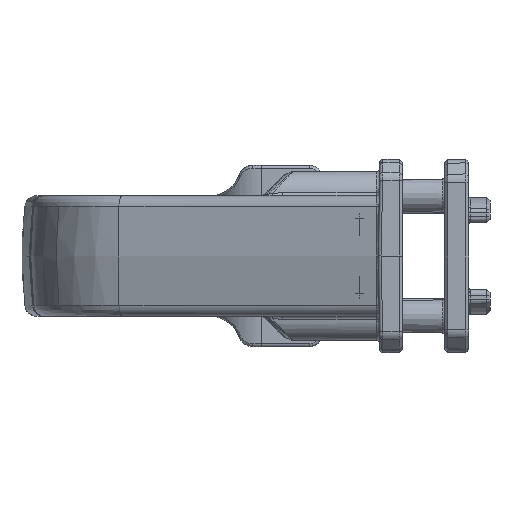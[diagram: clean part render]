
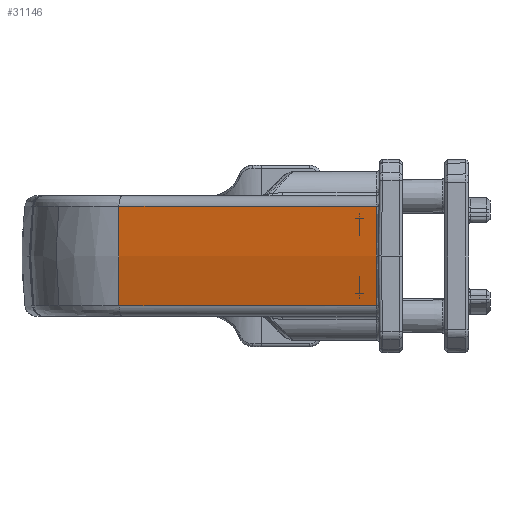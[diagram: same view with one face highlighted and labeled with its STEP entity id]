
A CAD part, left-side view. The second image highlights one B-rep face of the part: STEP entity #31146.
In plain terms, the highlighted cylindrical face has radius 65.276 mm (diameter 130.552 mm), a partial arc.
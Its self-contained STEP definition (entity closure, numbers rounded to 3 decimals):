
#31146 = ADVANCED_FACE('',(#31147),#31203,.T.);
#31147 = FACE_BOUND('',#31148,.T.);
#31148 = EDGE_LOOP('',(#31149,#31160,#31169,#31178,#31187,#31196));
#31149 = ORIENTED_EDGE('',*,*,#31150,.T.);
#31150 = EDGE_CURVE('',#31151,#31153,#31155,.T.);
#31151 = VERTEX_POINT('',#31152);
#31152 = CARTESIAN_POINT('',(-25.391,4.366,0.
    ));
#31153 = VERTEX_POINT('',#31154);
#31154 = CARTESIAN_POINT('',(-24.887,4.222,
    8.253));
#31155 = B_SPLINE_CURVE_WITH_KNOTS('',3,(#31156,#31157,#31158,#31159),
  .UNSPECIFIED.,.F.,.F.,(4,4),(0.,1.),.PIECEWISE_BEZIER_KNOTS.);
#31156 = CARTESIAN_POINT('',(-25.391,4.366,
    0.));
#31157 = CARTESIAN_POINT('',(-25.404,4.317,
    2.758));
#31158 = CARTESIAN_POINT('',(-25.236,4.269,
    5.517));
#31159 = CARTESIAN_POINT('',(-24.887,4.222,
    8.253));
#31160 = ORIENTED_EDGE('',*,*,#31161,.T.);
#31161 = EDGE_CURVE('',#31153,#31162,#31164,.T.);
#31162 = VERTEX_POINT('',#31163);
#31163 = CARTESIAN_POINT('',(-12.971,46.914,
    8.253));
#31164 = B_SPLINE_CURVE_WITH_KNOTS('',3,(#31165,#31166,#31167,#31168),
  .UNSPECIFIED.,.F.,.F.,(4,4),(0.,1.),.PIECEWISE_BEZIER_KNOTS.);
#31165 = CARTESIAN_POINT('',(-24.887,4.222,
    8.253));
#31166 = CARTESIAN_POINT('',(-20.915,18.452,
    8.253));
#31167 = CARTESIAN_POINT('',(-16.943,32.683,
    8.253));
#31168 = CARTESIAN_POINT('',(-12.971,46.914,
    8.253));
#31169 = ORIENTED_EDGE('',*,*,#31170,.T.);
#31170 = EDGE_CURVE('',#31162,#31171,#31173,.T.);
#31171 = VERTEX_POINT('',#31172);
#31172 = CARTESIAN_POINT('',(-13.515,46.914,
    0.));
#31173 = B_SPLINE_CURVE_WITH_KNOTS('',3,(#31174,#31175,#31176,#31177),
  .UNSPECIFIED.,.F.,.F.,(4,4),(0.,1.),.PIECEWISE_BEZIER_KNOTS.);
#31174 = CARTESIAN_POINT('',(-12.971,46.914,
    8.253));
#31175 = CARTESIAN_POINT('',(-13.333,46.914,
    5.514));
#31176 = CARTESIAN_POINT('',(-13.515,46.914,
    2.755));
#31177 = CARTESIAN_POINT('',(-13.515,46.914,
    0.));
#31178 = ORIENTED_EDGE('',*,*,#31179,.T.);
#31179 = EDGE_CURVE('',#31171,#31180,#31182,.T.);
#31180 = VERTEX_POINT('',#31181);
#31181 = CARTESIAN_POINT('',(-12.971,46.914,
    -8.253));
#31182 = B_SPLINE_CURVE_WITH_KNOTS('',3,(#31183,#31184,#31185,#31186),
  .UNSPECIFIED.,.F.,.F.,(4,4),(0.,1.),.PIECEWISE_BEZIER_KNOTS.);
#31183 = CARTESIAN_POINT('',(-13.515,46.914,
    0.));
#31184 = CARTESIAN_POINT('',(-13.515,46.914,
    -2.751));
#31185 = CARTESIAN_POINT('',(-13.334,46.914,
    -5.51));
#31186 = CARTESIAN_POINT('',(-12.971,46.914,
    -8.253));
#31187 = ORIENTED_EDGE('',*,*,#31188,.T.);
#31188 = EDGE_CURVE('',#31180,#31189,#31191,.T.);
#31189 = VERTEX_POINT('',#31190);
#31190 = CARTESIAN_POINT('',(-24.887,4.222,
    -8.253));
#31191 = B_SPLINE_CURVE_WITH_KNOTS('',3,(#31192,#31193,#31194,#31195),
  .UNSPECIFIED.,.F.,.F.,(4,4),(0.,1.),.PIECEWISE_BEZIER_KNOTS.);
#31192 = CARTESIAN_POINT('',(-12.971,46.914,
    -8.253));
#31193 = CARTESIAN_POINT('',(-16.943,32.683,
    -8.253));
#31194 = CARTESIAN_POINT('',(-20.915,18.452,
    -8.253));
#31195 = CARTESIAN_POINT('',(-24.887,4.222,
    -8.253));
#31196 = ORIENTED_EDGE('',*,*,#31197,.T.);
#31197 = EDGE_CURVE('',#31189,#31151,#31198,.T.);
#31198 = B_SPLINE_CURVE_WITH_KNOTS('',3,(#31199,#31200,#31201,#31202),
  .UNSPECIFIED.,.F.,.F.,(4,4),(0.,1.),.PIECEWISE_BEZIER_KNOTS.);
#31199 = CARTESIAN_POINT('',(-24.887,4.222,
    -8.253));
#31200 = CARTESIAN_POINT('',(-25.236,4.269,
    -5.517));
#31201 = CARTESIAN_POINT('',(-25.404,4.317,
    -2.758));
#31202 = CARTESIAN_POINT('',(-25.391,4.366,
    0.));
#31203 = CYLINDRICAL_SURFACE('',#31204,65.276);
#31204 = AXIS2_PLACEMENT_3D('',#31205,#31206,#31207);
#31205 = CARTESIAN_POINT('',(39.573,-5.692,0.)
  );
#31206 = DIRECTION('',(-0.269,-0.963,0.));
#31207 = DIRECTION('',(0.963,-0.269,
    0.));
